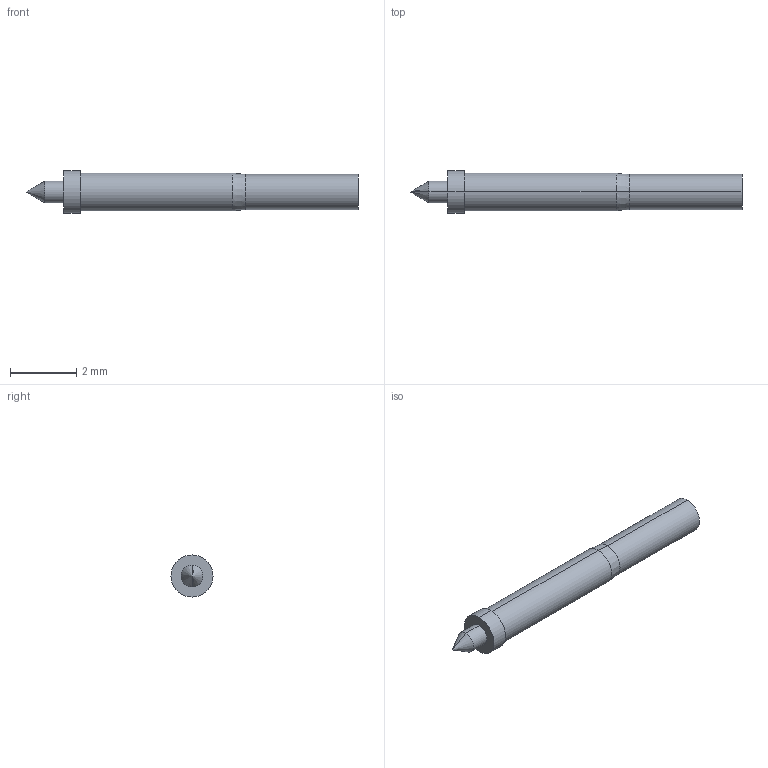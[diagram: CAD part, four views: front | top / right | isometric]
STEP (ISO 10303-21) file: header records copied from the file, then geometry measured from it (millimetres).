
FILE_DESCRIPTION (( 'STEP AP203' ), '1' );
FILE_NAME ('II11-1C.STEP', '2014-08-25T05:55:36', ( '' ), ( '' ), 'SwSTEP 2.0', 'SolidWorks 2011', '' );
FILE_SCHEMA (( 'CONFIG_CONTROL_DESIGN' ));
Length unit declared in the file: millimetre
Products named in the file (1): II11-1C
Bounding box: 10.03 x 1.27 x 1.27 mm (x, y, z)
Volume: 8.2 mm3; surface area: 39.4 mm2
Topology: 1 solids, 1 shells, 18 faces, 36 edges, 21 vertices
Faces by surface type: cylinder 10, cone 4, plane 4
Entity records: 535 total; most frequent: DIRECTION 92, CARTESIAN_POINT 74, ORIENTED_EDGE 68, AXIS2_PLACEMENT_3D 39, EDGE_CURVE 34, EDGE_LOOP 21, VERTEX_POINT 21, CIRCLE 20
